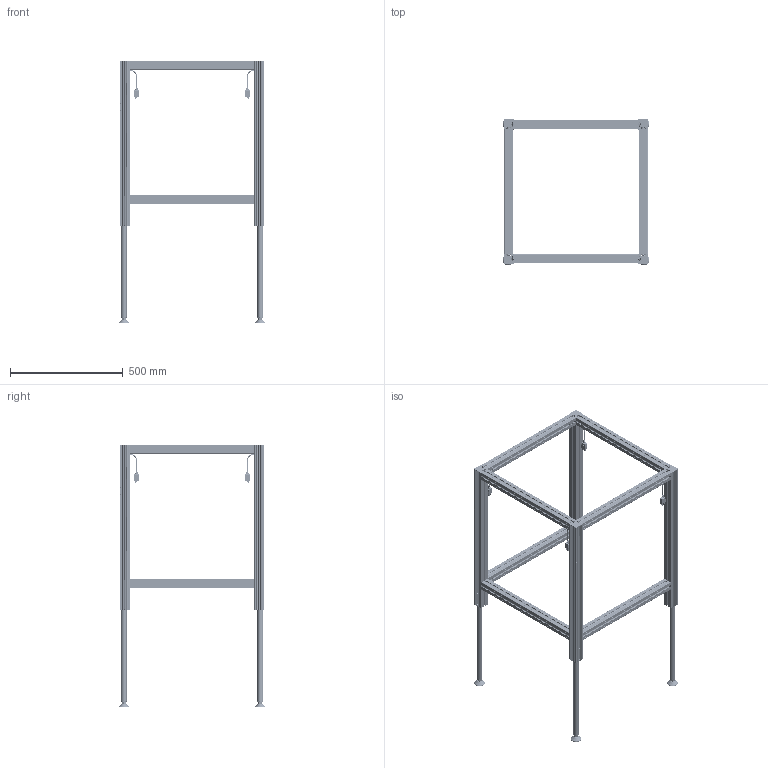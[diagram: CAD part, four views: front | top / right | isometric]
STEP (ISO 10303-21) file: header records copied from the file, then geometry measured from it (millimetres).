
FILE_DESCRIPTION(/* description */ ('Unknown'),/* implementation_level */ '2;1');
FILE_NAME(/* name */ 'Untergestell SQ.3 4340 595 XX XX_00-Ausgefahren',/* time_stamp */ '2022-02-04T13:24:20+01:00',/* author */ ('Unknown'),/* organization */ ('Unknown'),/* preprocessor_version */ 'ST-DEVELOPER v18.1',/* originating_system */ 'Solid Edge',/* authorisation */ 'Unknown');
FILE_SCHEMA (('AUTOMOTIVE_DESIGN {1 0 10303 214 3 1 1}'));
Products named in the file (19): Untergestell SQ.3 4340 595 XX XX; 907.02004_oa_0; 142.00014; 119.00501; 122.00005; 142.00020; 123.00111; 125.00051; 128.00040; Kabel Molex; 907.02004_oa_1; 115.00100; 119.00190; 142.00210; 113.00006; 113.00006-ohne Mutter; Mutter M10; 907.02004_oa_2; 907.02004_oa_3
Assembly tree (76 placements, depth 3):
  Untergestell SQ.3 4340 595 XX XX
    907.02004_oa_0
      142.00014  x4
      119.00501
      122.00005
      142.00020  x4
      123.00111
      125.00051
      128.00040
      Kabel Molex
    907.02004_oa_1
      142.00014  x4
      119.00501
      122.00005
      142.00020  x4
      123.00111
      125.00051
      128.00040
      Kabel Molex
    115.00100  x7
      119.00190
      142.00210
    113.00006  x4
      113.00006-ohne Mutter
      Mutter M10
    907.02004_oa_2
      142.00014  x4
      119.00501
      122.00005
      142.00020  x4
      123.00111
      125.00051
      128.00040
      Kabel Molex
    907.02004_oa_3
      142.00014  x4
      119.00501
      122.00005
      142.00020  x4
      123.00111
      125.00051
      128.00040
      Kabel Molex
Bounding box: 651 x 651 x 1163 mm (x, y, z)
Volume: 5443129.9 mm3; surface area: 3982832.7 mm2
Topology: 99 solids, 99 shells, 13892 faces, 39146 edges, 25572 vertices
Faces by surface type: plane 7616, cylinder 4786, bspline 700, cone 310, torus 306, sphere 174
Full cylindrical faces by diameter (mm): 2.5 x52, 3 x16, 4 x48, 5 x40, 6.647 x4, 7.8 x14, 8.376 x12, 9.5 x4, 10 x4, 11.3 x14, 11.5 x14, 12 x14, 12.2 x14, 13.5 x14, 15 x4, 17.3 x4, 18 x28, 18.1 x14, 19 x8, 20.8 x12, 21 x8, 25 x12, 29 x4, 30 x8, 35 x4, 39 x4, 47 x4
Entity records: 108350 total; most frequent: CARTESIAN_POINT 24772, ORIENTED_EDGE 17164, DIRECTION 15957, EDGE_CURVE 8582, VERTEX_POINT 5667, AXIS2_PLACEMENT_3D 5336, LINE 5285, VECTOR 5285
